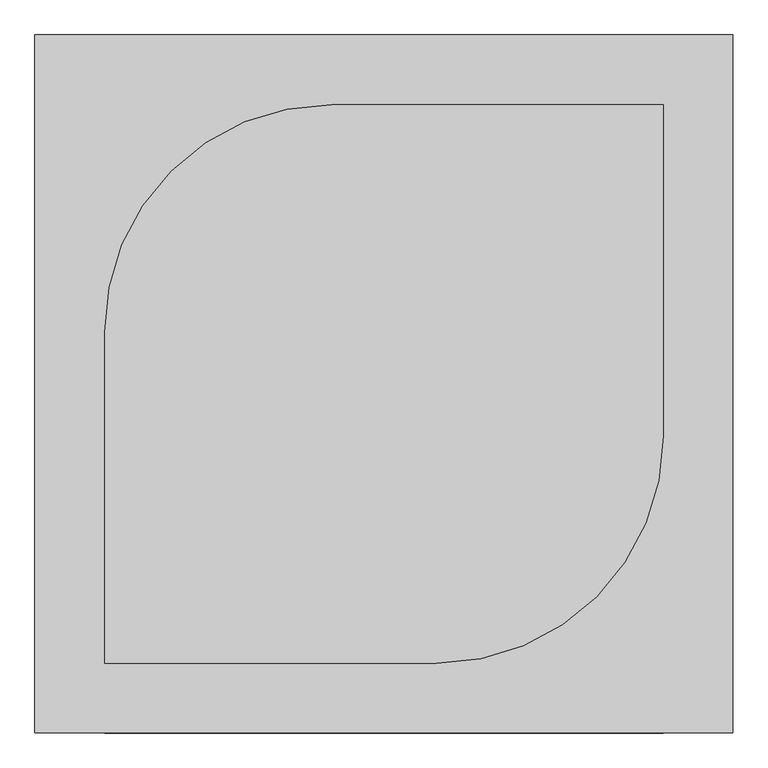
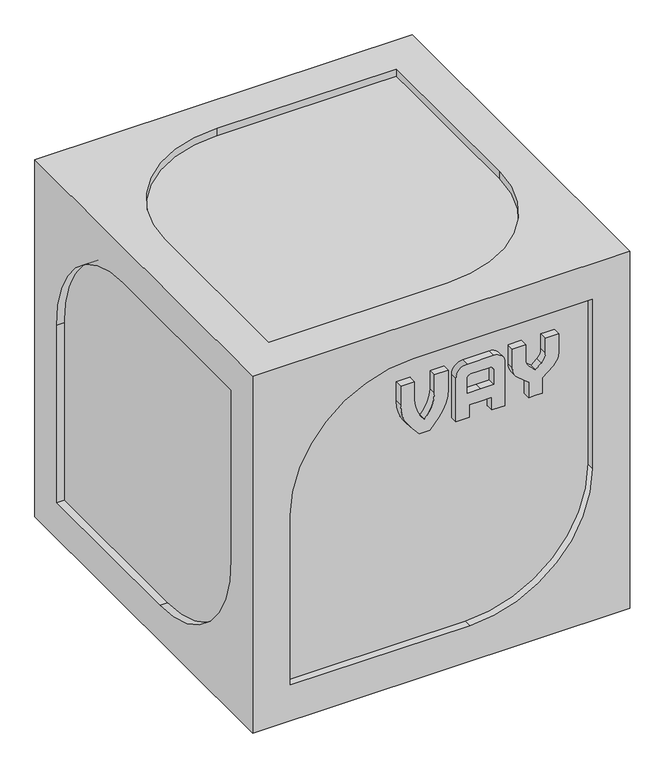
"""IFC4 building model written with IfcOpenShell, lengths in millimetres: proxy geometry, NLRS_00_GM_UN_nulpunt-blok_gen_vay : nulpuntblok_gen_VAY_1000x1000."""

from ifc_helpers import new_model, si_unit, point, frame, frame_2d, origin, place, context, project, spatial, polyline, circle_curve, trimmed, segment, composite_curve, outline, extrude, source, transform, mapped, element, save
from ifc_brep_helpers import plane_surface, cylinder_surface, revolved_surface, advanced_brep


def generic_models_3514b772(model_context):
    return source(origin(), model_context, "Body", "SolidModel", [
        advanced_brep(
        [(-1000.0, 0.2, 1000.0), (-1000.0, -999.7747229, 1000.0), (0.0, -999.7747229, 1000.0), (0.0, 0.2, 1000.0), (-575.0, -99.8, 1000.0), (-100.0, -99.8, 1000.0), (-100.0, -574.7747229, 1000.0), (-425.0, -899.7747229, 1000.0), (-900.0, -899.7747229, 1000.0), (-900.0, -424.8, 1000.0), (-1000.0, 0.2, 0.0), (0.0, 0.2, 0.0), (0.0, -999.7747229, 0.0), (-1000.0, -999.7747229, 0.0), (-221.993231, -749.7747229, 0.0), (-200.0, -727.7814919, 0.0), (-200.0, -435.2247069, 0.0), (-221.3268828, -394.2631108, 0.0), (-500.0, -199.1919288, 0.0), (-778.6731172, -394.2631108, 0.0), (-800.0, -435.2247069, 0.0), (-800.0, -727.8135382, 0.0), (-778.0388152, -749.7747229, 0.0), (-1000.0, -899.7747229, 900.0), (-1000.0, -899.7747229, 425.0), (-1000.0, -574.7747229, 100.0), (-1000.0, -99.8, 100.0), (-1000.0, -99.8, 597.8), (-1000.0, -402.0, 900.0), (-575.0, -999.7747229, 900.0), (-100.0, -999.7747229, 900.0), (-100.0, -999.7747229, 425.0), (-425.0, -999.7747229, 100.0), (-900.0, -999.7747229, 100.0), (-900.0, -999.7747229, 575.0), (-571.2495535, -999.7747229, 784.3768857), (-571.2495535, -999.7747229, 835.0), (-608.2401712, -999.7747229, 835.0), (-608.2401712, -999.7747229, 781.7961558), (-583.0978892, -999.7747229, 712.7183039), (-558.7905961, -999.7747229, 683.75), (-530.9877315, -999.7747229, 683.75), (-506.6804383, -999.7747229, 712.7183039), (-481.5381564, -999.7747229, 781.7961558), (-481.5381564, -999.7747229, 835.0), (-518.5287741, -999.7747229, 835.0), (-518.5287741, -999.7747229, 784.3768857), (-544.8891638, -999.7747229, 720.7372754), (-331.5381564, -999.7747229, 805.0), (-361.5381564, -999.7747229, 835.0), (-431.5381564, -999.7747229, 835.0), (-461.5381564, -999.7747229, 805.0), (-461.5381564, -999.7747229, 683.75), (-426.5381564, -999.7747229, 683.75), (-426.5381564, -999.7747229, 718.75), (-396.5381564, -999.7747229, 718.75), (-366.5381564, -999.7747229, 718.75), (-366.5381564, -999.7747229, 683.75), (-331.5381564, -999.7747229, 683.75), (-396.5381564, -999.7747229, 753.9798595), (-431.5381564, -999.7747229, 753.9798595), (-431.5381564, -999.7747229, 793.9798595), (-421.5381564, -999.7747229, 803.9798595), (-371.5381564, -999.7747229, 803.9798595), (-361.5381564, -999.7747229, 793.9798595), (-361.5381564, -999.7747229, 753.9798595), (-268.7162118, -999.7747229, 683.75), (-250.5008958, -999.7747229, 683.75), (-232.2855798, -999.7747229, 683.75), (-232.2855798, -999.7747229, 726.8480407), (-203.7521308, -999.7747229, 750.7904472), (-189.4636352, -999.7747229, 781.4322249), (-189.4636352, -999.7747229, 835.0), (-224.4636352, -999.7747229, 835.0), (-224.4636352, -999.7747229, 792.2271122), (-235.1800069, -999.7747229, 769.2457789), (-250.5008958, -999.7747229, 756.3900267), (-265.8217846, -999.7747229, 769.2457789), (-276.5381564, -999.7747229, 792.2271122), (-276.5381564, -999.7747229, 835.0), (-311.5381564, -999.7747229, 835.0), (-311.5381564, -999.7747229, 781.4322249), (-297.2496607, -999.7747229, 750.7904472), (-268.7162118, -999.7747229, 726.8480407), (0.0, -899.7747229, 575.0), (0.0, -574.7747229, 900.0), (0.0, -99.8, 900.0), (0.0, -99.8, 402.2), (0.0, -402.0, 100.0), (0.0, -899.7747229, 100.0), (-425.0, 0.2, 900.0), (-900.0, 0.2, 900.0), (-900.0, 0.2, 422.8973795), (-575.0, 0.2, 97.8973795), (-100.0, 0.2, 97.8973795), (-100.0, 0.2, 575.0), (-575.0, -899.7747229, 900.0), (-900.0, -899.7747229, 575.0), (-900.0, -899.7747229, 425.0), (-900.0, -899.7747229, 100.0), (-425.0, -899.7747229, 100.0), (-100.0, -899.7747229, 425.0), (-100.0, -899.7747229, 575.0), (-100.0, -899.7747229, 900.0), (-425.0, -899.7747229, 900.0), (-571.2495535, -899.7747229, 835.0), (-571.2495535, -899.7747229, 784.3768857), (-544.8891638, -899.7747229, 720.7372754), (-518.5287741, -899.7747229, 784.3768857), (-518.5287741, -899.7747229, 835.0), (-481.5381564, -899.7747229, 835.0), (-481.5381564, -899.7747229, 781.7961558), (-506.6804383, -899.7747229, 712.7183039), (-530.9877315, -899.7747229, 683.75), (-558.7905961, -899.7747229, 683.75), (-583.0978892, -899.7747229, 712.7183039), (-608.2401712, -899.7747229, 781.7961558), (-608.2401712, -899.7747229, 835.0), (-361.5381564, -899.7747229, 835.0), (-331.5381564, -899.7747229, 805.0), (-331.5381564, -899.7747229, 683.75), (-366.5381564, -899.7747229, 683.75), (-366.5381564, -899.7747229, 718.75), (-396.5381564, -899.7747229, 718.75), (-426.5381564, -899.7747229, 718.75), (-426.5381564, -899.7747229, 683.75), (-461.5381564, -899.7747229, 683.75), (-461.5381564, -899.7747229, 805.0), (-431.5381564, -899.7747229, 835.0), (-250.5008958, -899.7747229, 683.75), (-268.7162118, -899.7747229, 683.75), (-268.7162118, -899.7747229, 726.8480407), (-297.2496607, -899.7747229, 750.7904472), (-311.5381564, -899.7747229, 781.4322249), (-311.5381564, -899.7747229, 835.0), (-276.5381564, -899.7747229, 835.0), (-276.5381564, -899.7747229, 792.2271122), (-265.8217846, -899.7747229, 769.2457789), (-250.5008958, -899.7747229, 756.3900267), (-235.1800069, -899.7747229, 769.2457789), (-224.4636352, -899.7747229, 792.2271122), (-224.4636352, -899.7747229, 835.0), (-189.4636352, -899.7747229, 835.0), (-189.4636352, -899.7747229, 781.4322249), (-203.7521308, -899.7747229, 750.7904472), (-232.2855798, -899.7747229, 726.8480407), (-232.2855798, -899.7747229, 683.75), (-431.5381564, -899.7747229, 753.9798595), (-396.5381564, -899.7747229, 753.9798595), (-361.5381564, -899.7747229, 753.9798595), (-361.5381564, -899.7747229, 793.9798595), (-371.5381564, -899.7747229, 803.9798595), (-421.5381564, -899.7747229, 803.9798595), (-431.5381564, -899.7747229, 793.9798595), (-900.0, -402.0, 900.0), (-900.0, -99.8, 597.8), (-900.0, -99.8, 422.8973795), (-900.0, -99.8, 100.0), (-900.0, -574.7747229, 100.0), (-900.0, -899.7747229, 425.0), (-900.0, -899.7747229, 575.0), (-900.0, -899.7747229, 900.0), (-900.0, -424.8, 900.0), (-100.0, -574.7747229, 900.0), (-100.0, -899.7747229, 575.0), (-100.0, -899.7747229, 425.0), (-100.0, -899.7747229, 100.0), (-100.0, -402.0, 100.0), (-100.0, -99.8, 402.2), (-100.0, -99.8, 575.0), (-100.0, -99.8, 900.0), (-425.0, -99.8, 900.0), (-100.0, -99.8, 575.0), (-100.0, -99.8, 402.2), (-100.0, -99.8, 97.8973795), (-575.0, -99.8, 97.8973795), (-900.0, -99.8, 422.8973795), (-900.0, -99.8, 597.8), (-900.0, -99.8, 900.0), (-575.0, -99.8, 900.0), (-575.0, -99.8, 900.0), (-900.0, -424.8, 900.0), (-900.0, -899.7747229, 900.0), (-575.0, -899.7747229, 900.0), (-425.0, -899.7747229, 900.0), (-100.0, -574.7747229, 900.0), (-100.0, -99.8, 900.0), (-425.0, -99.8, 900.0), (-221.993231, -749.7747229, 100.0), (-778.0388152, -749.7747229, 100.0), (-800.0, -727.8135382, 100.0), (-800.0, -435.2247069, 100.0), (-778.6731172, -394.2631108, 100.0), (-500.0, -199.1919288, 100.0), (-221.3268828, -394.2631108, 100.0), (-200.0, -435.2247069, 100.0), (-200.0, -727.7814919, 100.0)],
        [
            (0, 1),
            (1, 2),
            (2, 3),
            (3, 0),
            (4, 5),
            (5, 6),
            (6, 7, circle_curve(frame((-425.0, -574.7747229, 1000.0), z_axis=(0.0, 0.0, -1.0), x_axis=(1.0, 0.0, 0.0)), 325.0)),
            (7, 8),
            (8, 9),
            (9, 4, circle_curve(frame((-575.0, -424.8, 1000.0), z_axis=(0.0, 0.0, -1.0), x_axis=(1.0, 0.0, 0.0)), 325.0)),
            (10, 11),
            (11, 12),
            (12, 13),
            (13, 10),
            (14, 15, circle_curve(frame((-221.993231, -727.7814919, 0.0), z_axis=(0.0, 0.0, 1.0), x_axis=(1.0, 0.0, 0.0)), 21.993231)),
            (15, 16),
            (16, 17, circle_curve(frame((-250.0, -435.2247069, 0.0), z_axis=(0.0, 0.0, 1.0), x_axis=(1.0, 0.0, 0.0)), 50.0)),
            (17, 18),
            (18, 19),
            (19, 20, circle_curve(frame((-750.0, -435.2247069, 0.0), z_axis=(0.0, 0.0, 1.0), x_axis=(1.0, 0.0, 0.0)), 50.0)),
            (20, 21),
            (21, 22, circle_curve(frame((-778.0388152, -727.8135382, 0.0), z_axis=(0.0, 0.0, 1.0), x_axis=(1.0, 0.0, 0.0)), 21.9611848)),
            (22, 14),
            (0, 10),
            (13, 1),
            (23, 24),
            (24, 25, circle_curve(frame((-1000.0, -574.7747229, 425.0), z_axis=(1.0, 0.0, 0.0), x_axis=(0.0, 1.0, 0.0)), 325.0)),
            (25, 26),
            (26, 27),
            (27, 28, circle_curve(frame((-1000.0, -402.0, 597.8), z_axis=(1.0, 0.0, 0.0), x_axis=(0.0, 1.0, 0.0)), 302.2)),
            (28, 23),
            (12, 2),
            (29, 30),
            (30, 31),
            (31, 32, circle_curve(frame((-425.0, -999.7747229, 425.0), z_axis=(0.0, 1.0, 0.0), x_axis=(1.0, 0.0, 0.0)), 325.0)),
            (32, 33),
            (33, 34),
            (34, 29, circle_curve(frame((-575.0, -999.7747229, 575.0), z_axis=(0.0, 1.0, 0.0), x_axis=(1.0, 0.0, 0.0)), 325.0)),
            (35, 36),
            (36, 37),
            (37, 38),
            (38, 39, circle_curve(frame((-500.7741111, -999.7747229, 781.7961558), z_axis=(0.0, -1.0, 0.0), x_axis=(1.0, 0.0, 0.0)), 107.4660601)),
            (39, 40),
            (40, 41),
            (41, 42),
            (42, 43, circle_curve(frame((-589.0042165, -999.7747229, 781.7961558), z_axis=(0.0, -1.0, 0.0), x_axis=(1.0, 0.0, 0.0)), 107.4660601)),
            (43, 44),
            (44, 45),
            (45, 46),
            (46, 47, circle_curve(frame((-608.5287741, -999.7747229, 784.3768857), z_axis=(0.0, 1.0, 0.0), x_axis=(1.0, 0.0, 0.0)), 90.0)),
            (47, 35, circle_curve(frame((-481.2495535, -999.7747229, 784.3768857), z_axis=(0.0, 1.0, 0.0), x_axis=(1.0, 0.0, 0.0)), 90.0)),
            (48, 49, circle_curve(frame((-361.5381564, -999.7747229, 805.0), z_axis=(0.0, -1.0, 0.0), x_axis=(1.0, 0.0, 0.0)), 30.0)),
            (49, 50),
            (50, 51, circle_curve(frame((-431.5381564, -999.7747229, 805.0), z_axis=(0.0, -1.0, 0.0), x_axis=(1.0, 0.0, 0.0)), 30.0)),
            (51, 52),
            (52, 53),
            (53, 54),
            (54, 55),
            (55, 56),
            (56, 57),
            (57, 58),
            (58, 48),
            (59, 60),
            (60, 61),
            (61, 62, circle_curve(frame((-421.5381564, -999.7747229, 793.9798595), z_axis=(0.0, 1.0, 0.0), x_axis=(1.0, 0.0, 0.0)), 10.0)),
            (62, 63),
            (63, 64, circle_curve(frame((-371.5381564, -999.7747229, 793.9798595), z_axis=(0.0, 1.0, 0.0), x_axis=(1.0, 0.0, 0.0)), 10.0)),
            (64, 65),
            (65, 59),
            (66, 67),
            (67, 68),
            (68, 69),
            (69, 70),
            (70, 71, circle_curve(frame((-229.4636352, -999.7747229, 781.4322249), z_axis=(0.0, -1.0, 0.0), x_axis=(1.0, 0.0, 0.0)), 40.0)),
            (71, 72),
            (72, 73),
            (73, 74),
            (74, 75, circle_curve(frame((-254.4636352, -999.7747229, 792.2271122), z_axis=(0.0, 1.0, 0.0), x_axis=(1.0, 0.0, 0.0)), 30.0)),
            (75, 76),
            (76, 77),
            (77, 78, circle_curve(frame((-246.5381564, -999.7747229, 792.2271122), z_axis=(0.0, 1.0, 0.0), x_axis=(1.0, 0.0, 0.0)), 30.0)),
            (78, 79),
            (79, 80),
            (80, 81),
            (81, 82, circle_curve(frame((-271.5381564, -999.7747229, 781.4322249), z_axis=(0.0, -1.0, 0.0), x_axis=(1.0, 0.0, 0.0)), 40.0)),
            (82, 83),
            (83, 66),
            (11, 3),
            (84, 85, circle_curve(frame((0.0, -574.7747229, 575.0), z_axis=(-1.0, 0.0, 0.0), x_axis=(0.0, 1.0, 0.0)), 325.0)),
            (85, 86),
            (86, 87),
            (87, 88, circle_curve(frame((0.0, -402.0, 402.2), z_axis=(-1.0, 0.0, 0.0), x_axis=(0.0, 1.0, 0.0)), 302.2)),
            (88, 89),
            (89, 84),
            (90, 91),
            (91, 92),
            (92, 93, circle_curve(frame((-575.0, 0.2, 422.8973795), z_axis=(0.0, -1.0, 0.0), x_axis=(1.0, 0.0, 0.0)), 325.0)),
            (93, 94),
            (94, 95),
            (95, 90, circle_curve(frame((-425.0, 0.2, 575.0), z_axis=(0.0, -1.0, 0.0), x_axis=(1.0, 0.0, 0.0)), 325.0)),
            (96, 97, circle_curve(frame((-575.0, -899.7747229, 575.0), z_axis=(0.0, -1.0, 0.0), x_axis=(1.0, 0.0, 0.0)), 325.0)),
            (97, 98),
            (98, 99),
            (99, 100),
            (100, 101, circle_curve(frame((-425.0, -899.7747229, 425.0), z_axis=(0.0, -1.0, 0.0), x_axis=(1.0, 0.0, 0.0)), 325.0)),
            (101, 102),
            (102, 103),
            (103, 104),
            (104, 96),
            (105, 106),
            (106, 107, circle_curve(frame((-481.2495535, -899.7747229, 784.3768857), z_axis=(0.0, -1.0, 0.0), x_axis=(1.0, 0.0, 0.0)), 90.0)),
            (107, 108, circle_curve(frame((-608.5287741, -899.7747229, 784.3768857), z_axis=(0.0, -1.0, 0.0), x_axis=(1.0, 0.0, 0.0)), 90.0)),
            (108, 109),
            (109, 110),
            (110, 111),
            (111, 112, circle_curve(frame((-589.0042165, -899.7747229, 781.7961558), z_axis=(0.0, 1.0, 0.0), x_axis=(1.0, 0.0, 0.0)), 107.4660601)),
            (112, 113),
            (113, 114),
            (114, 115),
            (115, 116, circle_curve(frame((-500.7741111, -899.7747229, 781.7961558), z_axis=(0.0, 1.0, 0.0), x_axis=(1.0, 0.0, 0.0)), 107.4660601)),
            (116, 117),
            (117, 105),
            (118, 119, circle_curve(frame((-361.5381564, -899.7747229, 805.0), z_axis=(0.0, 1.0, 0.0), x_axis=(1.0, 0.0, 0.0)), 30.0)),
            (119, 120),
            (120, 121),
            (121, 122),
            (122, 123),
            (123, 124),
            (124, 125),
            (125, 126),
            (126, 127),
            (127, 128, circle_curve(frame((-431.5381564, -899.7747229, 805.0), z_axis=(0.0, 1.0, 0.0), x_axis=(1.0, 0.0, 0.0)), 30.0)),
            (128, 118),
            (129, 130),
            (130, 131),
            (131, 132),
            (132, 133, circle_curve(frame((-271.5381564, -899.7747229, 781.4322249), z_axis=(0.0, 1.0, 0.0), x_axis=(1.0, 0.0, 0.0)), 40.0)),
            (133, 134),
            (134, 135),
            (135, 136),
            (136, 137, circle_curve(frame((-246.5381564, -899.7747229, 792.2271122), z_axis=(0.0, -1.0, 0.0), x_axis=(1.0, 0.0, 0.0)), 30.0)),
            (137, 138),
            (138, 139),
            (139, 140, circle_curve(frame((-254.4636352, -899.7747229, 792.2271122), z_axis=(0.0, -1.0, 0.0), x_axis=(1.0, 0.0, 0.0)), 30.0)),
            (140, 141),
            (141, 142),
            (142, 143),
            (143, 144, circle_curve(frame((-229.4636352, -899.7747229, 781.4322249), z_axis=(0.0, 1.0, 0.0), x_axis=(1.0, 0.0, 0.0)), 40.0)),
            (144, 145),
            (145, 146),
            (146, 129),
            (147, 148),
            (148, 149),
            (149, 150),
            (150, 151, circle_curve(frame((-371.5381564, -899.7747229, 793.9798595), z_axis=(0.0, -1.0, 0.0), x_axis=(1.0, 0.0, 0.0)), 10.0)),
            (151, 152),
            (152, 153, circle_curve(frame((-421.5381564, -899.7747229, 793.9798595), z_axis=(0.0, -1.0, 0.0), x_axis=(1.0, 0.0, 0.0)), 10.0)),
            (153, 147),
            (154, 155, circle_curve(frame((-900.0, -402.0, 597.8), z_axis=(-1.0, 0.0, 0.0), x_axis=(0.0, 1.0, 0.0)), 302.2)),
            (155, 156),
            (156, 157),
            (157, 158),
            (158, 159, circle_curve(frame((-900.0, -574.7747229, 425.0), z_axis=(-1.0, 0.0, 0.0), x_axis=(0.0, 1.0, 0.0)), 325.0)),
            (159, 160),
            (160, 161),
            (161, 162),
            (162, 154),
            (163, 164, circle_curve(frame((-100.0, -574.7747229, 575.0), z_axis=(1.0, 0.0, 0.0), x_axis=(0.0, 1.0, 0.0)), 325.0)),
            (164, 165),
            (165, 166),
            (166, 167),
            (167, 168, circle_curve(frame((-100.0, -402.0, 402.2), z_axis=(1.0, 0.0, 0.0), x_axis=(0.0, 1.0, 0.0)), 302.2)),
            (168, 169),
            (169, 170),
            (170, 163),
            (171, 172, circle_curve(frame((-425.0, -99.8, 575.0), z_axis=(0.0, 1.0, 0.0), x_axis=(1.0, 0.0, 0.0)), 325.0)),
            (172, 173),
            (173, 174),
            (174, 175),
            (175, 176, circle_curve(frame((-575.0, -99.8, 422.8973795), z_axis=(0.0, 1.0, 0.0), x_axis=(1.0, 0.0, 0.0)), 325.0)),
            (176, 177),
            (177, 178),
            (178, 179),
            (179, 171),
            (180, 181, circle_curve(frame((-575.0, -424.8, 900.0), z_axis=(0.0, 0.0, 1.0), x_axis=(1.0, 0.0, 0.0)), 325.0)),
            (181, 182),
            (182, 183),
            (183, 184),
            (184, 185, circle_curve(frame((-425.0, -574.7747229, 900.0), z_axis=(0.0, 0.0, 1.0), x_axis=(1.0, 0.0, 0.0)), 325.0)),
            (185, 186),
            (186, 187),
            (187, 180),
            (188, 189),
            (189, 190, circle_curve(frame((-778.0388152, -727.8135382, 100.0), z_axis=(0.0, 0.0, -1.0), x_axis=(1.0, 0.0, 0.0)), 21.9611848)),
            (190, 191),
            (191, 192, circle_curve(frame((-750.0, -435.2247069, 100.0), z_axis=(0.0, 0.0, -1.0), x_axis=(1.0, 0.0, 0.0)), 50.0)),
            (192, 193),
            (193, 194),
            (194, 195, circle_curve(frame((-250.0, -435.2247069, 100.0), z_axis=(0.0, 0.0, -1.0), x_axis=(1.0, 0.0, 0.0)), 50.0)),
            (195, 196),
            (196, 188, circle_curve(frame((-221.993231, -727.7814919, 100.0), z_axis=(0.0, 0.0, -1.0), x_axis=(1.0, 0.0, 0.0)), 21.993231)),
            (196, 15),
            (14, 188),
            (195, 16),
            (194, 17),
            (193, 18),
            (192, 19),
            (191, 20),
            (190, 21),
            (189, 22),
            (29, 96),
            (103, 30),
            (34, 97),
            (33, 99),
            (32, 100),
            (31, 101),
            (178, 91),
            (90, 171),
            (176, 92),
            (175, 93),
            (174, 94),
            (172, 95),
            (159, 24),
            (23, 161),
            (158, 25),
            (157, 26),
            (155, 27),
            (154, 28),
            (105, 36),
            (35, 106),
            (47, 107),
            (46, 108),
            (45, 109),
            (44, 110),
            (43, 111),
            (42, 112),
            (41, 113),
            (40, 114),
            (39, 115),
            (38, 116),
            (37, 117),
            (118, 49),
            (48, 119),
            (58, 120),
            (57, 121),
            (56, 122),
            (55, 123),
            (54, 124),
            (53, 125),
            (52, 126),
            (51, 127),
            (50, 128),
            (129, 67),
            (66, 130),
            (83, 131),
            (82, 132),
            (81, 133),
            (80, 134),
            (79, 135),
            (78, 136),
            (77, 137),
            (76, 138),
            (75, 139),
            (74, 140),
            (73, 141),
            (72, 142),
            (71, 143),
            (70, 144),
            (69, 145),
            (68, 146),
            (147, 60),
            (59, 148),
            (65, 149),
            (64, 150),
            (63, 151),
            (62, 152),
            (61, 153),
            (163, 85),
            (84, 164),
            (89, 166),
            (88, 167),
            (87, 168),
            (86, 170),
            (4, 180),
            (186, 5),
            (9, 181),
            (8, 182),
            (7, 184),
            (6, 185),
        ],
        [
            plane_surface(frame((-1000.0, 0.2, 1000.0), z_axis=(0.0, 0.0, 1.0), x_axis=(0.0, -1.0, 0.0))),
            plane_surface(frame((-1000.0, 0.2, 0.0), z_axis=(0.0, 0.0, -1.0), x_axis=(0.0, 1.0, 0.0))),
            plane_surface(frame((-1000.0, 0.2, 1000.0), z_axis=(-1.0, 0.0, 0.0), x_axis=(0.0, 0.0, -1.0))),
            plane_surface(frame((-1000.0, -999.7747229, 1000.0), z_axis=(0.0, -1.0, 0.0), x_axis=(0.0, 0.0, -1.0))),
            plane_surface(frame((0.0, -999.7747229, 1000.0), z_axis=(1.0, 0.0, 0.0), x_axis=(0.0, 0.0, -1.0))),
            plane_surface(frame((0.0, 0.2, 1000.0), z_axis=(0.0, 1.0, 0.0), x_axis=(0.0, 0.0, -1.0))),
            plane_surface(frame((-575.0, -899.7747229, 900.0), z_axis=(0.0, -1.0, 0.0), x_axis=(1.0, 0.0, 0.0))),
            plane_surface(frame((-900.0, -899.7747229, 900.0), z_axis=(-1.0, 0.0, 0.0), x_axis=(0.0, 0.0, -1.0))),
            plane_surface(frame((-100.0, -249.7747229, 575.0), z_axis=(1.0, 0.0, 0.0), x_axis=(0.0, 0.0, -1.0))),
            plane_surface(frame((-900.0, -99.8, 900.0), z_axis=(0.0, 1.0, 0.0), x_axis=(-1.0, 0.0, 0.0))),
            plane_surface(frame((-575.0, -99.8, 900.0), z_axis=(0.0, 0.0, 1.0), x_axis=(1.0, 0.0, 0.0))),
            plane_surface(frame((-200.0, -727.7814919, 100.0), z_axis=(0.0, 0.0, -1.0), x_axis=(0.0, 1.0, 0.0))),
            revolved_surface(polyline([(-200.0, -727.7814919, 100.0), (-200.0, -727.7814919, 0.0)]), (-221.993231, -727.7814919, 0.0), (0.0, 0.0, 1.0)),
            plane_surface(frame((-200.0, -727.7814919, 100.0), z_axis=(-1.0, 0.0, 0.0), x_axis=(0.0, 0.0, -1.0))),
            revolved_surface(polyline([(-200.0, -435.2247069, 100.0), (-200.0, -435.2247069, 0.0)]), (-250.0, -435.2247069, 0.0), (0.0, 0.0, 1.0)),
            plane_surface(frame((-221.3268828, -394.2631108, 100.0), z_axis=(-0.5734623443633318, -0.8192319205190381, 0.0), x_axis=(0.0, 0.0, -1.0))),
            plane_surface(frame((-500.0, -199.1919288, 100.0), z_axis=(0.5734623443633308, -0.8192319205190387, 0.0), x_axis=(0.0, 0.0, -1.0))),
            revolved_surface(polyline([(-700.0, -435.2247069, 100.0), (-700.0, -435.2247069, 0.0)]), (-750.0, -435.2247069, 0.0), (0.0, 0.0, 1.0)),
            plane_surface(frame((-800.0, -435.2247069, 100.0), z_axis=(1.0, 0.0, 0.0), x_axis=(0.0, 0.0, -1.0))),
            revolved_surface(polyline([(-756.0776304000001, -727.8135382, 100.0), (-756.0776304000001, -727.8135382, 0.0)]), (-778.0388152, -727.8135382, 0.0), (0.0, 0.0, 1.0)),
            plane_surface(frame((-778.0388152, -749.7747229, 100.0), z_axis=(0.0, 1.0, 0.0), x_axis=(0.0, 0.0, -1.0))),
            plane_surface(frame((-100.0, -999.7747229, 900.0), z_axis=(0.0, 0.0, -1.0), x_axis=(0.0, 1.0, 0.0))),
            revolved_surface(polyline([(-250.0, -999.7747229, 575.0), (-250.0, -899.7747229, 575.0)]), (-575.0, -899.7747229, 575.0), (0.0, -1.0, 0.0)),
            plane_surface(frame((-900.0, -999.7747229, 575.0), z_axis=(1.0, 0.0, 0.0), x_axis=(0.0, 1.0, 0.0))),
            plane_surface(frame((-900.0, -999.7747229, 100.0), z_axis=(0.0, 0.0, 1.0), x_axis=(0.0, 1.0, 0.0))),
            revolved_surface(polyline([(-100.0, -999.7747229, 425.0), (-100.0, -899.7747229, 425.0)]), (-425.0, -899.7747229, 425.0), (0.0, -1.0, 0.0)),
            plane_surface(frame((-100.0, -999.7747229, 425.0), z_axis=(-1.0, 0.0, 0.0), x_axis=(0.0, 1.0, 0.0))),
            plane_surface(frame((-425.0, -99.8, 900.0), z_axis=(0.0, 0.0, -1.0), x_axis=(0.0, 1.0, 0.0))),
            plane_surface(frame((-900.0, -99.8, 900.0), z_axis=(1.0, 0.0, 0.0), x_axis=(0.0, 1.0, 0.0))),
            revolved_surface(polyline([(-250.0, -99.8, 422.8973795), (-250.0, 0.2, 422.8973795)]), (-575.0, 0.2, 422.8973795), (0.0, -1.0, 0.0)),
            plane_surface(frame((-575.0, -99.8, 97.8973795), z_axis=(0.0, 0.0, 1.0), x_axis=(0.0, 1.0, 0.0))),
            plane_surface(frame((-100.0, -99.8, 97.8973795), z_axis=(-1.0, 0.0, 0.0), x_axis=(0.0, 1.0, 0.0))),
            revolved_surface(polyline([(-100.0, -99.8, 575.0), (-100.0, 0.2, 575.0)]), (-425.0, 0.2, 575.0), (0.0, -1.0, 0.0)),
            plane_surface(frame((-900.0, -899.7747229, 900.0), z_axis=(0.0, 1.0, 0.0), x_axis=(-1.0, 0.0, 0.0))),
            revolved_surface(polyline([(-900.0, -249.77472290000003, 425.0), (-1000.0, -249.77472290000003, 425.0)]), (-1000.0, -574.7747229, 425.0), (1.0, 0.0, 0.0)),
            plane_surface(frame((-900.0, -574.7747229, 100.0), z_axis=(0.0, 0.0, 1.0), x_axis=(-1.0, 0.0, 0.0))),
            plane_surface(frame((-900.0, -99.8, 100.0), z_axis=(0.0, -1.0, 0.0), x_axis=(-1.0, 0.0, 0.0))),
            revolved_surface(polyline([(-900.0, -99.80000000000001, 597.8), (-1000.0, -99.80000000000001, 597.8)]), (-1000.0, -402.0, 597.8), (1.0, 0.0, 0.0)),
            plane_surface(frame((-900.0, -402.0, 900.0), z_axis=(0.0, 0.0, -1.0), x_axis=(-1.0, 0.0, 0.0))),
            plane_surface(frame((-571.2495535, -999.7747229, 835.0), z_axis=(1.0, 0.0, 0.0), x_axis=(0.0, 1.0, 0.0))),
            revolved_surface(polyline([(-391.2495535, -999.7747229, 784.3768857), (-391.2495535, -899.7747229, 784.3768857)]), (-481.2495535, 0.2, 784.3768857), (0.0, -1.0, 0.0)),
            revolved_surface(polyline([(-518.5287741, -999.7747229, 784.3768857), (-518.5287741, -899.7747229, 784.3768857)]), (-608.5287741, 0.2, 784.3768857), (0.0, -1.0, 0.0)),
            plane_surface(frame((-518.5287741, -999.7747229, 784.3768857), z_axis=(-1.0, 0.0, 0.0), x_axis=(0.0, 1.0, 0.0))),
            plane_surface(frame((-518.5287741, -999.7747229, 835.0), z_axis=(0.0, 0.0, 1.0), x_axis=(0.0, 1.0, 0.0))),
            plane_surface(frame((-481.5381564, -999.7747229, 835.0), z_axis=(1.0, 0.0, 0.0), x_axis=(0.0, 1.0, 0.0))),
            cylinder_surface(frame((-589.0042165, 0.2, 781.7961558), z_axis=(0.0, 1.0, 0.0), x_axis=(1.0, 0.0, 0.0)), 107.4660601),
            plane_surface(frame((-506.6804383, -999.7747229, 712.7183039), z_axis=(0.76604444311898, 0.0, -0.642787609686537), x_axis=(0.0, 1.0, 0.0))),
            plane_surface(frame((-530.9877315, -999.7747229, 683.75), z_axis=(0.0, 0.0, -1.0), x_axis=(0.0, 1.0, 0.0))),
            plane_surface(frame((-558.7905961, -999.7747229, 683.75), z_axis=(-0.76604444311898, 0.0, -0.6427876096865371), x_axis=(0.0, 1.0, 0.0))),
            cylinder_surface(frame((-500.7741111, 0.2, 781.7961558), z_axis=(0.0, 1.0, 0.0), x_axis=(1.0, 0.0, 0.0)), 107.4660601),
            plane_surface(frame((-608.2401712, -999.7747229, 781.7961558), z_axis=(-1.0, 0.0, 0.0), x_axis=(0.0, 1.0, 0.0))),
            plane_surface(frame((-608.2401712, -999.7747229, 835.0), z_axis=(0.0, 0.0, 1.0), x_axis=(0.0, 1.0, 0.0))),
            cylinder_surface(frame((-361.5381564, 0.2, 805.0), z_axis=(0.0, 1.0, 0.0), x_axis=(1.0, 0.0, 0.0)), 30.0),
            plane_surface(frame((-331.5381564, -999.7747229, 805.0), z_axis=(1.0, 0.0, 0.0), x_axis=(0.0, 1.0, 0.0))),
            plane_surface(frame((-331.5381564, -999.7747229, 683.75), z_axis=(0.0, 0.0, -1.0), x_axis=(0.0, 1.0, 0.0))),
            plane_surface(frame((-366.5381564, -999.7747229, 683.75), z_axis=(-1.0, 0.0, 0.0), x_axis=(0.0, 1.0, 0.0))),
            plane_surface(frame((-366.5381564, -999.7747229, 718.75), z_axis=(0.0, 0.0, -1.0), x_axis=(0.0, 1.0, 0.0))),
            plane_surface(frame((-396.5381564, -999.7747229, 718.75), z_axis=(0.0, 0.0, -1.0), x_axis=(0.0, 1.0, 0.0))),
            plane_surface(frame((-426.5381564, -999.7747229, 718.75), z_axis=(1.0, 0.0, 0.0), x_axis=(0.0, 1.0, 0.0))),
            plane_surface(frame((-426.5381564, -999.7747229, 683.75), z_axis=(0.0, 0.0, -1.0), x_axis=(0.0, 1.0, 0.0))),
            plane_surface(frame((-461.5381564, -999.7747229, 683.75), z_axis=(-1.0, 0.0, 0.0), x_axis=(0.0, 1.0, 0.0))),
            cylinder_surface(frame((-431.5381564, 0.2, 805.0), z_axis=(0.0, 1.0, 0.0), x_axis=(1.0, 0.0, 0.0)), 30.0),
            plane_surface(frame((-431.5381564, -999.7747229, 835.0), z_axis=(0.0, 0.0, 1.0), x_axis=(0.0, 1.0, 0.0))),
            plane_surface(frame((-250.5008958, -999.7747229, 683.75), z_axis=(0.0, 0.0, -1.0), x_axis=(0.0, 1.0, 0.0))),
            plane_surface(frame((-268.7162118, -999.7747229, 683.75), z_axis=(-1.0, 0.0, 0.0), x_axis=(0.0, 1.0, 0.0))),
            plane_surface(frame((-268.7162118, -999.7747229, 726.8480407), z_axis=(-0.6427876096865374, 0.0, -0.7660444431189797), x_axis=(0.0, 1.0, 0.0))),
            cylinder_surface(frame((-271.5381564, 0.2, 781.4322249), z_axis=(0.0, 1.0, 0.0), x_axis=(1.0, 0.0, 0.0)), 40.0),
            plane_surface(frame((-311.5381564, -999.7747229, 781.4322249), z_axis=(-1.0, 0.0, 0.0), x_axis=(0.0, 1.0, 0.0))),
            plane_surface(frame((-311.5381564, -999.7747229, 835.0), z_axis=(0.0, 0.0, 1.0), x_axis=(0.0, 1.0, 0.0))),
            plane_surface(frame((-276.5381564, -999.7747229, 835.0), z_axis=(1.0, 0.0, 0.0), x_axis=(0.0, 1.0, 0.0))),
            revolved_surface(polyline([(-216.5381564, -999.7747229, 792.2271122), (-216.5381564, -899.7747229, 792.2271122)]), (-246.5381564, 0.2, 792.2271122), (0.0, -1.0, 0.0)),
            plane_surface(frame((-265.8217846, -999.7747229, 769.2457789), z_axis=(0.6427876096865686, 0.0, 0.7660444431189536), x_axis=(0.0, 1.0, 0.0))),
            plane_surface(frame((-250.5008958, -999.7747229, 756.3900267), z_axis=(-0.6427876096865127, 0.0, 0.7660444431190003), x_axis=(0.0, 1.0, 0.0))),
            revolved_surface(polyline([(-224.4636352, -999.7747229, 792.2271122), (-224.4636352, -899.7747229, 792.2271122)]), (-254.4636352, 0.2, 792.2271122), (0.0, -1.0, 0.0)),
            plane_surface(frame((-224.4636352, -999.7747229, 792.2271122), z_axis=(-1.0, 0.0, 0.0), x_axis=(0.0, 1.0, 0.0))),
            plane_surface(frame((-224.4636352, -999.7747229, 835.0), z_axis=(0.0, 0.0, 1.0), x_axis=(0.0, 1.0, 0.0))),
            plane_surface(frame((-189.4636352, -999.7747229, 835.0), z_axis=(1.0, 0.0, 0.0), x_axis=(0.0, 1.0, 0.0))),
            cylinder_surface(frame((-229.4636352, 0.2, 781.4322249), z_axis=(0.0, 1.0, 0.0), x_axis=(1.0, 0.0, 0.0)), 40.0),
            plane_surface(frame((-203.7521308, -999.7747229, 750.7904472), z_axis=(0.6427876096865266, 0.0, -0.7660444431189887), x_axis=(0.0, 1.0, 0.0))),
            plane_surface(frame((-232.2855798, -999.7747229, 726.8480407), z_axis=(1.0, 0.0, 0.0), x_axis=(0.0, 1.0, 0.0))),
            plane_surface(frame((-232.2855798, -999.7747229, 683.75), z_axis=(0.0, 0.0, -1.0), x_axis=(0.0, 1.0, 0.0))),
            plane_surface(frame((-431.5381564, -999.7747229, 753.9798595), z_axis=(0.0, 0.0, 1.0), x_axis=(0.0, 1.0, 0.0))),
            plane_surface(frame((-396.5381564, -999.7747229, 753.9798595), z_axis=(0.0, 0.0, 1.0), x_axis=(0.0, 1.0, 0.0))),
            plane_surface(frame((-361.5381564, -999.7747229, 753.9798595), z_axis=(-1.0, 0.0, 0.0), x_axis=(0.0, 1.0, 0.0))),
            revolved_surface(polyline([(-361.5381564, -999.7747229, 793.9798595), (-361.5381564, -899.7747229, 793.9798595)]), (-371.5381564, 0.2, 793.9798595), (0.0, -1.0, 0.0)),
            plane_surface(frame((-371.5381564, -999.7747229, 803.9798595), z_axis=(0.0, 0.0, -1.0), x_axis=(0.0, 1.0, 0.0))),
            revolved_surface(polyline([(-411.5381564, -999.7747229, 793.9798595), (-411.5381564, -899.7747229, 793.9798595)]), (-421.5381564, 0.2, 793.9798595), (0.0, -1.0, 0.0)),
            plane_surface(frame((-431.5381564, -999.7747229, 793.9798595), z_axis=(1.0, 0.0, 0.0), x_axis=(0.0, 1.0, 0.0))),
            revolved_surface(polyline([(0.0, -249.77472290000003, 575.0), (-100.0, -249.77472290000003, 575.0)]), (-100.0, -574.7747229, 575.0), (1.0, 0.0, 0.0)),
            plane_surface(frame((0.0, -899.7747229, 575.0), z_axis=(0.0, 1.0, 0.0), x_axis=(-1.0, 0.0, 0.0))),
            plane_surface(frame((0.0, -899.7747229, 100.0), z_axis=(0.0, 0.0, 1.0), x_axis=(-1.0, 0.0, 0.0))),
            revolved_surface(polyline([(0.0, -99.80000000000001, 402.2), (-100.0, -99.80000000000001, 402.2)]), (-100.0, -402.0, 402.2), (1.0, 0.0, 0.0)),
            plane_surface(frame((0.0, -99.8, 402.2), z_axis=(0.0, -1.0, 0.0), x_axis=(-1.0, 0.0, 0.0))),
            plane_surface(frame((0.0, -99.8, 900.0), z_axis=(0.0, 0.0, -1.0), x_axis=(-1.0, 0.0, 0.0))),
            plane_surface(frame((-100.0, -99.8, 1000.0), z_axis=(0.0, -1.0, 0.0), x_axis=(0.0, 0.0, -1.0))),
            revolved_surface(polyline([(-250.0, -424.8, 1000.0), (-250.0, -424.8, 900.0)]), (-575.0, -424.8, 900.0), (0.0, 0.0, 1.0)),
            plane_surface(frame((-900.0, -424.8, 1000.0), z_axis=(1.0, 0.0, 0.0), x_axis=(0.0, 0.0, -1.0))),
            plane_surface(frame((-900.0, -899.7747229, 1000.0), z_axis=(0.0, 1.0, 0.0), x_axis=(0.0, 0.0, -1.0))),
            revolved_surface(polyline([(-100.0, -574.7747229, 1000.0), (-100.0, -574.7747229, 900.0)]), (-425.0, -574.7747229, 900.0), (0.0, 0.0, 1.0)),
            plane_surface(frame((-100.0, -574.7747229, 1000.0), z_axis=(-1.0, 0.0, 0.0), x_axis=(0.0, 0.0, -1.0))),
        ],
        [
            (0, [[1, 2, 3, 4], [5, 6, 7, 8, 9, 10]]),
            (1, [[11, 12, 13, 14], [15, 16, 17, 18, 19, 20, 21, 22, 23]]),
            (2, [[-1, 24, -14, 25], [26, 27, 28, 29, 30, 31]]),
            (3, [[-2, -25, -13, 32], [33, 34, 35, 36, 37, 38]]),
            (3, [[39, 40, 41, 42, 43, 44, 45, 46, 47, 48, 49, 50, 51]]),
            (3, [[52, 53, 54, 55, 56, 57, 58, 59, 60, 61, 62], [63, 64, 65, 66, 67, 68, 69]]),
            (3, [[70, 71, 72, 73, 74, 75, 76, 77, 78, 79, 80, 81, 82, 83, 84, 85, 86, 87]]),
            (4, [[-3, -32, -12, 88], [89, 90, 91, 92, 93, 94]]),
            (5, [[-4, -88, -11, -24], [95, 96, 97, 98, 99, 100]]),
            (6, [[101, 102, 103, 104, 105, 106, 107, 108, 109], [110, 111, 112, 113, 114, 115, 116, 117, 118, 119, 120, 121, 122], [123, 124, 125, 126, 127, 128, 129, 130, 131, 132, 133], [134, 135, 136, 137, 138, 139, 140, 141, 142, 143, 144, 145, 146, 147, 148, 149, 150, 151]]),
            (6, [[152, 153, 154, 155, 156, 157, 158]]),
            (7, [[159, 160, 161, 162, 163, 164, 165, 166, 167]]),
            (8, [[168, 169, 170, 171, 172, 173, 174, 175]]),
            (9, [[176, 177, 178, 179, 180, 181, 182, 183, 184]]),
            (10, [[185, 186, 187, 188, 189, 190, 191, 192]]),
            (11, [[193, 194, 195, 196, 197, 198, 199, 200, 201]]),
            (12, [[-201, 202, -15, 203]]),
            (13, [[-200, 204, -16, -202]]),
            (14, [[-199, 205, -17, -204]]),
            (15, [[-198, 206, -18, -205]]),
            (16, [[-197, 207, -19, -206]]),
            (17, [[-196, 208, -20, -207]]),
            (18, [[-195, 209, -21, -208]]),
            (19, [[-194, 210, -22, -209]]),
            (20, [[-193, -203, -23, -210]]),
            (21, [[211, -109, -108, 212, -33]]),
            (22, [[-101, -211, -38, 213]]),
            (23, [[-213, -37, 214, -103, -102]]),
            (24, [[-104, -214, -36, 215]]),
            (25, [[-105, -215, -35, 216]]),
            (26, [[-212, -107, -106, -216, -34]]),
            (27, [[217, -95, 218, -184, -183]]),
            (28, [[-217, -182, -181, 219, -96]]),
            (29, [[-180, 220, -97, -219]]),
            (30, [[-179, 221, -98, -220]]),
            (31, [[-221, -178, -177, 222, -99]]),
            (32, [[-176, -218, -100, -222]]),
            (33, [[223, -26, 224, -165, -164]]),
            (34, [[-163, 225, -27, -223]]),
            (35, [[-162, 226, -28, -225]]),
            (36, [[-226, -161, -160, 227, -29]]),
            (37, [[-159, 228, -30, -227]]),
            (38, [[-224, -31, -228, -167, -166]]),
            (39, [[-110, 229, -39, 230]]),
            (40, [[-111, -230, -51, 231]]),
            (41, [[-112, -231, -50, 232]]),
            (42, [[-113, -232, -49, 233]]),
            (43, [[-114, -233, -48, 234]]),
            (44, [[-115, -234, -47, 235]]),
            (45, [[-116, -235, -46, 236]]),
            (46, [[-117, -236, -45, 237]]),
            (47, [[-118, -237, -44, 238]]),
            (48, [[-119, -238, -43, 239]]),
            (49, [[-120, -239, -42, 240]]),
            (50, [[-121, -240, -41, 241]]),
            (51, [[-122, -241, -40, -229]]),
            (52, [[-123, 242, -52, 243]]),
            (53, [[-124, -243, -62, 244]]),
            (54, [[-125, -244, -61, 245]]),
            (55, [[-126, -245, -60, 246]]),
            (56, [[-127, -246, -59, 247]]),
            (57, [[-128, -247, -58, 248]]),
            (58, [[-129, -248, -57, 249]]),
            (59, [[-130, -249, -56, 250]]),
            (60, [[-131, -250, -55, 251]]),
            (61, [[-132, -251, -54, 252]]),
            (62, [[-133, -252, -53, -242]]),
            (63, [[-134, 253, -70, 254]]),
            (64, [[-135, -254, -87, 255]]),
            (65, [[-136, -255, -86, 256]]),
            (66, [[-137, -256, -85, 257]]),
            (67, [[-138, -257, -84, 258]]),
            (68, [[-139, -258, -83, 259]]),
            (69, [[-140, -259, -82, 260]]),
            (70, [[-141, -260, -81, 261]]),
            (71, [[-142, -261, -80, 262]]),
            (72, [[-143, -262, -79, 263]]),
            (73, [[-144, -263, -78, 264]]),
            (74, [[-145, -264, -77, 265]]),
            (75, [[-146, -265, -76, 266]]),
            (76, [[-147, -266, -75, 267]]),
            (77, [[-148, -267, -74, 268]]),
            (78, [[-149, -268, -73, 269]]),
            (79, [[-150, -269, -72, 270]]),
            (80, [[-151, -270, -71, -253]]),
            (81, [[-152, 271, -63, 272]]),
            (82, [[-153, -272, -69, 273]]),
            (83, [[-154, -273, -68, 274]]),
            (84, [[-155, -274, -67, 275]]),
            (85, [[-156, -275, -66, 276]]),
            (86, [[-157, -276, -65, 277]]),
            (87, [[-158, -277, -64, -271]]),
            (88, [[-168, 278, -89, 279]]),
            (89, [[-279, -94, 280, -170, -169]]),
            (90, [[-171, -280, -93, 281]]),
            (91, [[-172, -281, -92, 282]]),
            (92, [[-282, -91, 283, -174, -173]]),
            (93, [[-175, -283, -90, -278]]),
            (94, [[284, -192, -191, 285, -5]]),
            (95, [[-185, -284, -10, 286]]),
            (96, [[-186, -286, -9, 287]]),
            (97, [[-287, -8, 288, -188, -187]]),
            (98, [[-189, -288, -7, 289]]),
            (99, [[-190, -289, -6, -285]]),
        ],
    ),
        extrude(outline(composite_curve([segment(trimmed(circle_curve(frame_2d((575.0, -575.0)), 325.0), [point((900.0, -575.0))], [point((575.0, -900.0))], False, "CARTESIAN"), True, "CONTINUOUS"), segment(polyline([(575.0, -900.0), (100.0, -900.0), (100.0, -425.0)]), True, "CONTINUOUS"), segment(trimmed(circle_curve(frame_2d((425.0, -425.0)), 325.0), [point((100.0, -425.0))], [point((425.0, -100.0))], False, "CARTESIAN"), True, "CONTINUOUS"), segment(polyline([(425.0, -100.0), (900.0, -100.0), (900.0, -575.0)]), True, "CONTINUOUS")], self_intersect=False), holes=[composite_curve([segment(polyline([(835.0, -518.5287741), (835.0, -481.5381564), (781.7961558, -481.5381564)]), True, "CONTINUOUS"), segment(trimmed(circle_curve(frame_2d((781.7961558, -589.0042165)), 107.4660601), [point((781.7961558, -481.5381564))], [point((712.7183039, -506.6804383))], True, "CARTESIAN"), True, "CONTINUOUS"), segment(polyline([(712.7183039, -506.6804383), (683.75, -530.9877315), (683.75, -558.7905961), (712.7183039, -583.0978892)]), True, "CONTINUOUS"), segment(trimmed(circle_curve(frame_2d((781.7961558, -500.7741111)), 107.4660601), [point((712.7183039, -583.0978892))], [point((781.7961558, -608.2401712))], True, "CARTESIAN"), True, "CONTINUOUS"), segment(polyline([(781.7961558, -608.2401712), (835.0, -608.2401712), (835.0, -571.2495535), (784.3768857, -571.2495535)]), True, "CONTINUOUS"), segment(trimmed(circle_curve(frame_2d((784.3768857, -481.2495535)), 90.0), [point((784.3768857, -571.2495535))], [point((720.7372754, -544.8891638))], False, "CARTESIAN"), True, "CONTINUOUS"), segment(trimmed(circle_curve(frame_2d((784.3768857, -608.5287741)), 90.0), [point((720.7372754, -544.8891638))], [point((784.3768857, -518.5287741))], False, "CARTESIAN"), True, "CONTINUOUS"), segment(polyline([(784.3768857, -518.5287741), (835.0, -518.5287741)]), True, "CONTINUOUS")], self_intersect=False), composite_curve([segment(polyline([(835.0, -431.5381564), (835.0, -361.5381564)]), True, "CONTINUOUS"), segment(trimmed(circle_curve(frame_2d((805.0, -361.5381564)), 30.0), [point((835.0, -361.5381564))], [point((805.0, -331.5381564))], True, "CARTESIAN"), True, "CONTINUOUS"), segment(polyline([(805.0, -331.5381564), (683.75, -331.5381564), (683.75, -366.5381564), (718.75, -366.5381564), (718.75, -396.5381564), (718.75, -426.5381564), (683.75, -426.5381564), (683.75, -461.5381564), (805.0, -461.5381564)]), True, "CONTINUOUS"), segment(trimmed(circle_curve(frame_2d((805.0, -431.5381564)), 30.0), [point((805.0, -461.5381564))], [point((835.0, -431.5381564))], True, "CARTESIAN"), True, "CONTINUOUS")], self_intersect=False), composite_curve([segment(polyline([(835.0, -276.5381564), (792.2271122, -276.5381564)]), True, "CONTINUOUS"), segment(trimmed(circle_curve(frame_2d((792.2271122, -246.5381564)), 30.0), [point((792.2271122, -276.5381564))], [point((769.2457789, -265.8217846))], False, "CARTESIAN"), True, "CONTINUOUS"), segment(polyline([(769.2457789, -265.8217846), (756.3900267, -250.5008958), (769.2457789, -235.1800069)]), True, "CONTINUOUS"), segment(trimmed(circle_curve(frame_2d((792.2271122, -254.4636352)), 30.0), [point((769.2457789, -235.1800069))], [point((792.2271122, -224.4636352))], False, "CARTESIAN"), True, "CONTINUOUS"), segment(polyline([(792.2271122, -224.4636352), (835.0, -224.4636352), (835.0, -189.4636352), (781.4322249, -189.4636352)]), True, "CONTINUOUS"), segment(trimmed(circle_curve(frame_2d((781.4322249, -229.4636352)), 40.0), [point((781.4322249, -189.4636352))], [point((750.7904472, -203.7521308))], True, "CARTESIAN"), True, "CONTINUOUS"), segment(polyline([(750.7904472, -203.7521308), (726.8480407, -232.2855798), (683.75, -232.2855798), (683.75, -250.5008958), (683.75, -268.7162118), (726.8480407, -268.7162118), (750.7904472, -297.2496607)]), True, "CONTINUOUS"), segment(trimmed(circle_curve(frame_2d((781.4322249, -271.5381564)), 40.0), [point((750.7904472, -297.2496607))], [point((781.4322249, -311.5381564))], True, "CARTESIAN"), True, "CONTINUOUS"), segment(polyline([(781.4322249, -311.5381564), (835.0, -311.5381564), (835.0, -276.5381564)]), True, "CONTINUOUS")], self_intersect=False)]), frame((0.0, -979.7747229, 0.0), z_axis=(0.0, 1.0, 0.0), x_axis=(0.0, 0.0, 1.0)), (0.0, 0.0, 1.0), 80.0),
        extrude(outline(composite_curve([segment(polyline([(753.9798595, -431.5381564), (753.9798595, -396.5381564), (753.9798595, -361.5381564), (793.9798595, -361.5381564)]), True, "CONTINUOUS"), segment(trimmed(circle_curve(frame_2d((793.9798595, -371.5381564)), 10.0), [point((793.9798595, -361.5381564))], [point((803.9798595, -371.5381564))], False, "CARTESIAN"), True, "CONTINUOUS"), segment(polyline([(803.9798595, -371.5381564), (803.9798595, -421.5381564)]), True, "CONTINUOUS"), segment(trimmed(circle_curve(frame_2d((793.9798595, -421.5381564)), 10.0), [point((803.9798595, -421.5381564))], [point((793.9798595, -431.5381564))], False, "CARTESIAN"), True, "CONTINUOUS"), segment(polyline([(793.9798595, -431.5381564), (753.9798595, -431.5381564)]), True, "CONTINUOUS")], self_intersect=False)), frame((0.0, -979.7747229, 0.0), z_axis=(0.0, 1.0, 0.0), x_axis=(0.0, 0.0, 1.0)), (0.0, 0.0, 1.0), 80.0),
        advanced_brep(
        [(-20.0, -99.8, 900.0), (-20.0, -574.7747229, 900.0), (-20.0, -899.7747229, 575.0), (-20.0, -899.7747229, 100.0), (-20.0, -402.0, 100.0), (-20.0, -99.8, 402.2), (-100.0, -99.8, 402.2), (-100.0, -402.0, 100.0), (-100.0, -899.7747229, 100.0), (-100.0, -899.7747229, 575.0), (-100.0, -574.7747229, 900.0), (-100.0, -99.8, 900.0), (-100.0, -99.8, 575.0)],
        [
            (0, 1),
            (1, 2, circle_curve(frame((-20.0, -574.7747229, 575.0), z_axis=(1.0, 0.0, 0.0), x_axis=(0.0, 1.0, 0.0)), 325.0)),
            (2, 3),
            (3, 4),
            (4, 5, circle_curve(frame((-20.0, -402.0, 402.2), z_axis=(1.0, 0.0, 0.0), x_axis=(0.0, 1.0, 0.0)), 302.2)),
            (5, 0),
            (6, 7, circle_curve(frame((-100.0, -402.0, 402.2), z_axis=(-1.0, 0.0, 0.0), x_axis=(0.0, 1.0, 0.0)), 302.2)),
            (7, 8),
            (8, 9),
            (9, 10, circle_curve(frame((-100.0, -574.7747229, 575.0), z_axis=(-1.0, 0.0, 0.0), x_axis=(0.0, 1.0, 0.0)), 325.0)),
            (10, 11),
            (11, 12),
            (12, 6),
            (0, 11),
            (10, 1),
            (9, 2),
            (8, 3),
            (7, 4),
            (6, 5),
        ],
        [
            plane_surface(frame((-20.0, -574.7747229, 900.0), z_axis=(1.0, 0.0, 0.0), x_axis=(0.0, -1.0, 0.0))),
            plane_surface(frame((-100.0, -574.7747229, 900.0), z_axis=(-1.0, 0.0, 0.0), x_axis=(0.0, 1.0, 0.0))),
            plane_surface(frame((-20.0, -99.8, 900.0), z_axis=(0.0, 0.0, 1.0), x_axis=(-1.0, 0.0, 0.0))),
            cylinder_surface(frame((-100.0, -574.7747229, 575.0), z_axis=(1.0, 0.0, 0.0), x_axis=(0.0, 1.0, 0.0)), 325.0),
            plane_surface(frame((-20.0, -899.7747229, 575.0), z_axis=(0.0, -1.0, 0.0), x_axis=(-1.0, 0.0, 0.0))),
            plane_surface(frame((-20.0, -899.7747229, 100.0), z_axis=(0.0, 0.0, -1.0), x_axis=(-1.0, 0.0, 0.0))),
            cylinder_surface(frame((-100.0, -402.0, 402.2), z_axis=(1.0, 0.0, 0.0), x_axis=(0.0, 1.0, 0.0)), 302.2),
            plane_surface(frame((-20.0, -99.8, 402.2), z_axis=(0.0, 1.0, 0.0), x_axis=(-1.0, 0.0, 0.0))),
        ],
        [
            (0, [[1, 2, 3, 4, 5, 6]]),
            (1, [[7, 8, 9, 10, 11, 12, 13]]),
            (2, [[-1, 14, -11, 15]]),
            (3, [[-2, -15, -10, 16]]),
            (4, [[-3, -16, -9, 17]]),
            (5, [[-4, -17, -8, 18]]),
            (6, [[-5, -18, -7, 19]]),
            (7, [[-6, -19, -13, -12, -14]]),
        ],
    ),
        extrude(outline(composite_curve([segment(polyline([(900.0, -425.0), (900.0, -900.0), (422.8973795, -900.0)]), True, "CONTINUOUS"), segment(trimmed(circle_curve(frame_2d((422.8973795, -575.0)), 325.0), [point((422.8973795, -900.0))], [point((97.8973795, -575.0))], False, "CARTESIAN"), True, "CONTINUOUS"), segment(polyline([(97.8973795, -575.0), (97.8973795, -100.0), (575.0, -100.0)]), True, "CONTINUOUS"), segment(trimmed(circle_curve(frame_2d((575.0, -425.0)), 325.0), [point((575.0, -100.0))], [point((900.0, -425.0))], False, "CARTESIAN"), True, "CONTINUOUS")], self_intersect=False)), frame((0.0, -99.8, 0.0), z_axis=(0.0, 1.0, 0.0), x_axis=(0.0, 0.0, 1.0)), (0.0, 0.0, 1.0), 80.0),
        extrude(outline(composite_curve([segment(polyline([(-575.0, -99.8), (-100.0, -99.8), (-100.0, -574.7747229)]), True, "CONTINUOUS"), segment(trimmed(circle_curve(frame_2d((-425.0, -574.7747229)), 325.0), [point((-100.0, -574.7747229))], [point((-425.0, -899.7747229))], False, "CARTESIAN"), True, "CONTINUOUS"), segment(polyline([(-425.0, -899.7747229), (-900.0, -899.7747229), (-900.0, -424.8)]), True, "CONTINUOUS"), segment(trimmed(circle_curve(frame_2d((-575.0, -424.8)), 325.0), [point((-900.0, -424.8))], [point((-575.0, -99.8))], False, "CARTESIAN"), True, "CONTINUOUS")], self_intersect=False)), frame((0.0, 0.0, 900.0), z_axis=(0.0, 0.0, 1.0), x_axis=(1.0, 0.0, 0.0)), (0.0, 0.0, 1.0), 80.0),
        extrude(outline(composite_curve([segment(trimmed(circle_curve(frame_2d((-402.0, 597.8)), 302.2), [point((-402.0, 900.0))], [point((-99.8, 597.8))], False, "CARTESIAN"), True, "CONTINUOUS"), segment(polyline([(-99.8, 597.8), (-99.8, 100.0), (-574.7747229, 100.0)]), True, "CONTINUOUS"), segment(trimmed(circle_curve(frame_2d((-574.7747229, 425.0)), 325.0), [point((-574.7747229, 100.0))], [point((-899.7747229, 425.0))], False, "CARTESIAN"), True, "CONTINUOUS"), segment(polyline([(-899.7747229, 425.0), (-899.7747229, 900.0), (-402.0, 900.0)]), True, "CONTINUOUS")], self_intersect=False)), frame((-980.0, 0.0, 0.0), z_axis=(1.0, 0.0, 0.0), x_axis=(0.0, 1.0, 0.0)), (0.0, 0.0, 1.0), 80.0),
        extrude(outline(composite_curve([segment(polyline([(-200.0, -435.2247069), (-200.0, -727.7814919)]), True, "CONTINUOUS"), segment(trimmed(circle_curve(frame_2d((-221.993231, -727.7814919)), 21.993231), [point((-200.0, -727.7814919))], [point((-221.993231, -749.7747229))], False, "CARTESIAN"), True, "CONTINUOUS"), segment(polyline([(-221.993231, -749.7747229), (-778.0388152, -749.7747229)]), True, "CONTINUOUS"), segment(trimmed(circle_curve(frame_2d((-778.0388152, -727.8135382)), 21.9611848), [point((-778.0388152, -749.7747229))], [point((-800.0, -727.8135382))], False, "CARTESIAN"), True, "CONTINUOUS"), segment(polyline([(-800.0, -727.8135382), (-800.0, -435.2247069)]), True, "CONTINUOUS"), segment(trimmed(circle_curve(frame_2d((-750.0, -435.2247069)), 50.0), [point((-800.0, -435.2247069))], [point((-778.6731172, -394.2631108))], False, "CARTESIAN"), True, "CONTINUOUS"), segment(polyline([(-778.6731172, -394.2631108), (-500.0, -199.1919288), (-221.3268828, -394.2631108)]), True, "CONTINUOUS"), segment(trimmed(circle_curve(frame_2d((-250.0, -435.2247069)), 50.0), [point((-221.3268828, -394.2631108))], [point((-200.0, -435.2247069))], False, "CARTESIAN"), True, "CONTINUOUS")], self_intersect=False)), frame((0.0, 0.0, 20.0), z_axis=(0.0, 0.0, 1.0), x_axis=(1.0, 0.0, 0.0)), (0.0, 0.0, 1.0), 80.0),
    ])


if __name__ == "__main__":
    model = new_model("IFC4")
    model_context = context("Model", 3, world=origin())
    ifc_project = project(units=[si_unit("LENGTHUNIT", "METRE", prefix="MILLI")], contexts=[model_context])
    site = spatial("IfcSite", under=ifc_project)
    building = spatial("IfcBuilding", under=site)
    placement = place(None, origin())
    generic_models_shape = generic_models_3514b772(model_context)
    element("IfcBuildingElementProxy", 1, Name="NLRS_00_GM_UN_nulpunt-blok_gen_vay : nulpuntblok_gen_VAY_1000x1000", ObjectType="NLRS_00_GM_UN_nulpunt-blok_gen_vay : nulpuntblok_gen_VAY_1000x1000", at=placement, inside=building, context=model_context, shape_type="MappedRepresentation", body=[
        mapped(generic_models_shape, transform((0.0, 0.0, 0.0), x_axis=(1.0, 0.0, 0.0), y_axis=(0.0, 1.0, 0.0), z_axis=(0.0, 0.0, 1.0))),
    ])
    save(model, "model.ifc")
